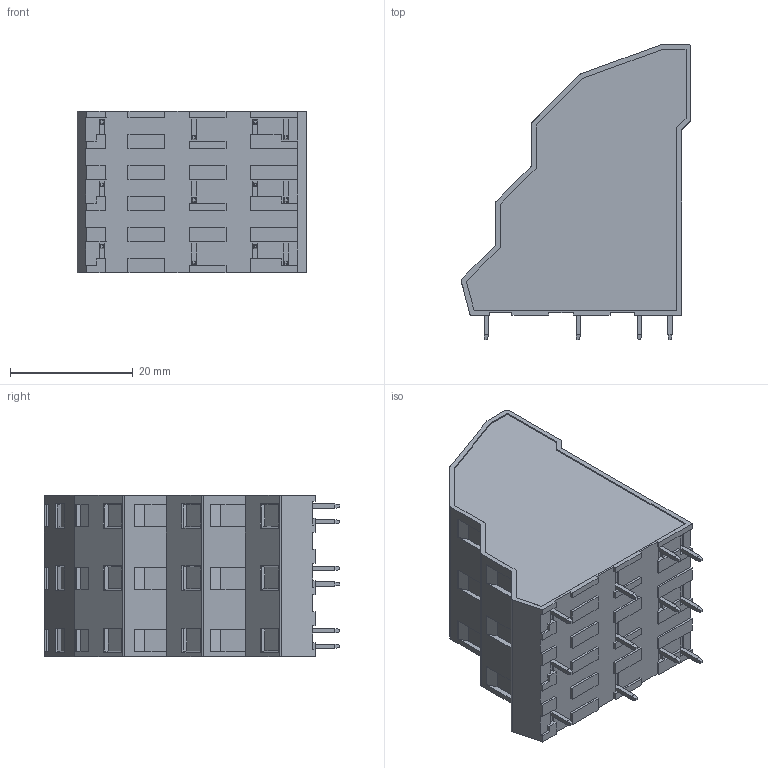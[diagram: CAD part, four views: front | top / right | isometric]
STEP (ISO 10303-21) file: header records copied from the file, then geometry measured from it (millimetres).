
FILE_DESCRIPTION((''),'2;1');
FILE_NAME('HS0340810000G_SW0001','2019-06-05T',('zhenbing.lai'),(''),'CREO PARAMETRIC BY PTC INC, 2016260','CREO PARAMETRIC BY PTC INC, 2016260','');
FILE_SCHEMA(('CONFIG_CONTROL_DESIGN'));
Length unit declared in the file: millimetre
Products named in the file (1): HS0340810000G_SW0001
Bounding box: 37.5 x 48.2 x 26.4 mm (x, y, z)
Volume: 29996.5 mm3; surface area: 6849.8 mm2
Topology: 1 solids, 10 shells, 550 faces, 1437 edges, 941 vertices
Faces by surface type: plane 515, cylinder 32, cone 3
Entity records: 16579 total; most frequent: CARTESIAN_POINT 2988, ORIENTED_EDGE 2874, DIRECTION 2600, EDGE_CURVE 1437, VECTOR 1340, LINE 1340, VERTEX_POINT 941, AXIS2_PLACEMENT_3D 630
